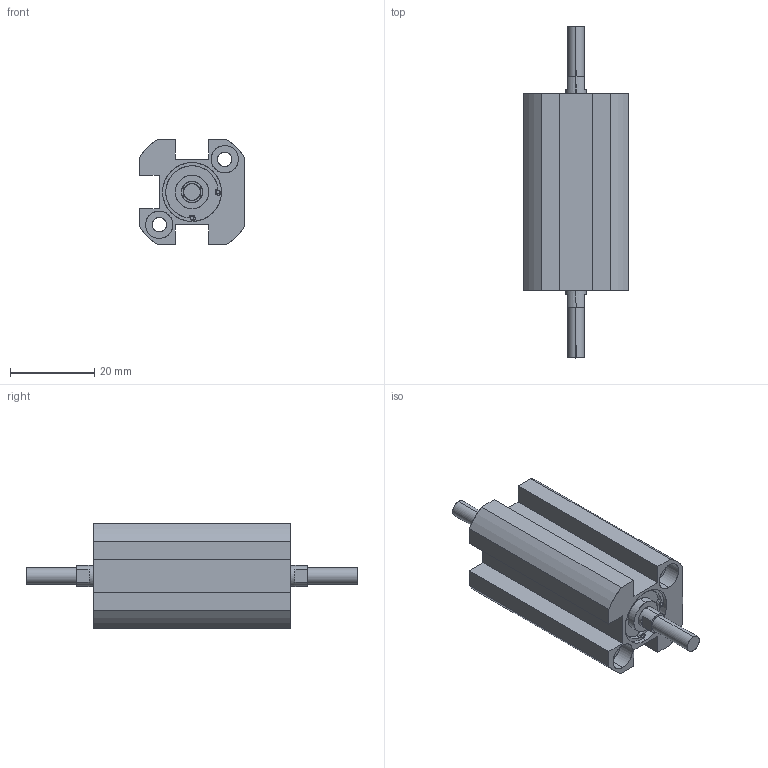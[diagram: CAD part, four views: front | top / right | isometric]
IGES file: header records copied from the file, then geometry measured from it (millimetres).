
Start section: SolidWorks IGES file using analytic representation for surfaces
Global section: file name: C:\Users\Toshiba\Desktop\XG#M7-10D-10.IGS; native system: SolidWorks 2014; preprocessor: SolidWorks 2014; author: Toshiba; date: 160524.102125; units: millimetre
Bounding box: 25 x 79 x 25 mm (x, y, z)
Surface area: 8703.5 mm2 (no closed solid volume)
Topology: 0 solids, 0 shells, 108 faces, 1780 edges, 1776 vertices
Faces by surface type: revolution 62, bspline 46
